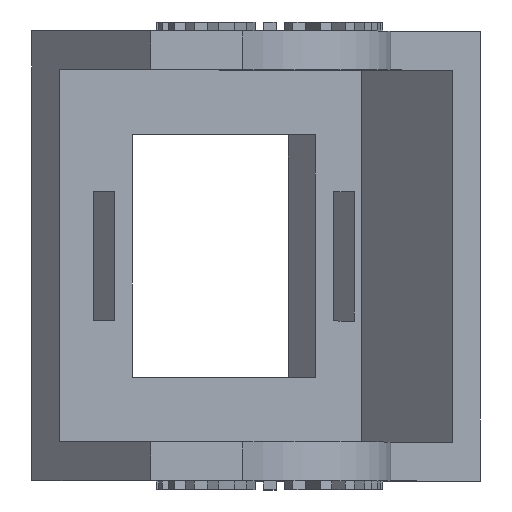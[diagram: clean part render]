
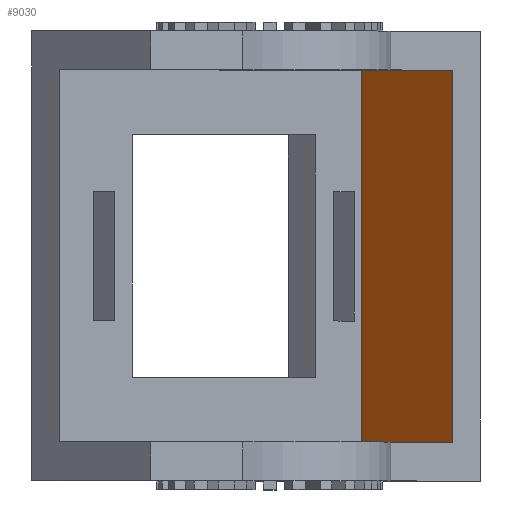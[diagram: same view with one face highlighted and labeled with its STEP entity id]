
A CAD part, top view. The second image highlights one B-rep face of the part: STEP entity #9030.
In plain terms, the highlighted planar face has unit normal (-0.707, 0, 0.707).
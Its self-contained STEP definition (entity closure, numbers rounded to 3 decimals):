
#828 = PLANE('',#829);
#829 = AXIS2_PLACEMENT_3D('',#830,#831,#832);
#830 = CARTESIAN_POINT('',(47.011,-13.9,34.646));
#831 = DIRECTION('',(0.707,0.,0.707));
#832 = DIRECTION('',(-0.707,0.,0.707));
#3741 = VERTEX_POINT('',#3742);
#3742 = CARTESIAN_POINT('',(45.314,11.5,36.343));
#3756 = PLANE('',#3757);
#3757 = AXIS2_PLACEMENT_3D('',#3758,#3759,#3760);
#3758 = CARTESIAN_POINT('',(39.657,11.5,27.292));
#3759 = DIRECTION('',(0.,1.,0.));
#3760 = DIRECTION('',(-0.707,0.,0.707));
#3768 = EDGE_CURVE('',#3769,#3741,#3771,.T.);
#3769 = VERTEX_POINT('',#3770);
#3770 = CARTESIAN_POINT('',(45.314,-11.5,36.343));
#3771 = SURFACE_CURVE('',#3772,(#3776,#3783),.PCURVE_S1.);
#3772 = LINE('',#3773,#3774);
#3773 = CARTESIAN_POINT('',(45.314,-13.9,36.343));
#3774 = VECTOR('',#3775,1.);
#3775 = DIRECTION('',(0.,1.,0.));
#3776 = PCURVE('',#828,#3777);
#3777 = DEFINITIONAL_REPRESENTATION('',(#3778),#3782);
#3778 = LINE('',#3779,#3780);
#3779 = CARTESIAN_POINT('',(2.4,0.));
#3780 = VECTOR('',#3781,1.);
#3781 = DIRECTION('',(0.,-1.));
#3782 = ( GEOMETRIC_REPRESENTATION_CONTEXT(2) 
PARAMETRIC_REPRESENTATION_CONTEXT() REPRESENTATION_CONTEXT('2D SPACE',''
  ) );
#3783 = PCURVE('',#3784,#3789);
#3784 = PLANE('',#3785);
#3785 = AXIS2_PLACEMENT_3D('',#3786,#3787,#3788);
#3786 = CARTESIAN_POINT('',(37.96,-13.9,28.989));
#3787 = DIRECTION('',(-0.707,0.,0.707));
#3788 = DIRECTION('',(0.707,0.,0.707));
#3789 = DEFINITIONAL_REPRESENTATION('',(#3790),#3794);
#3790 = LINE('',#3791,#3792);
#3791 = CARTESIAN_POINT('',(10.4,0.));
#3792 = VECTOR('',#3793,1.);
#3793 = DIRECTION('',(0.,1.));
#3794 = ( GEOMETRIC_REPRESENTATION_CONTEXT(2) 
PARAMETRIC_REPRESENTATION_CONTEXT() REPRESENTATION_CONTEXT('2D SPACE',''
  ) );
#3812 = PLANE('',#3813);
#3813 = AXIS2_PLACEMENT_3D('',#3814,#3815,#3816);
#3814 = CARTESIAN_POINT('',(39.657,-11.5,27.292));
#3815 = DIRECTION('',(0.,1.,0.));
#3816 = DIRECTION('',(-0.707,0.,0.707));
#3943 = PLANE('',#3944);
#3944 = AXIS2_PLACEMENT_3D('',#3945,#3946,#3947);
#3945 = CARTESIAN_POINT('',(41.354,-13.9,28.989));
#3946 = DIRECTION('',(0.707,0.,0.707));
#3947 = DIRECTION('',(-0.707,0.,0.707));
#8820 = EDGE_CURVE('',#8821,#8823,#8825,.T.);
#8821 = VERTEX_POINT('',#8822);
#8822 = CARTESIAN_POINT('',(39.657,11.5,30.686));
#8823 = VERTEX_POINT('',#8824);
#8824 = CARTESIAN_POINT('',(39.657,-11.5,30.686));
#8825 = SURFACE_CURVE('',#8826,(#8830,#8837),.PCURVE_S1.);
#8826 = LINE('',#8827,#8828);
#8827 = CARTESIAN_POINT('',(39.657,-13.9,30.686));
#8828 = VECTOR('',#8829,1.);
#8829 = DIRECTION('',(0.,-1.,0.));
#8830 = PCURVE('',#3943,#8831);
#8831 = DEFINITIONAL_REPRESENTATION('',(#8832),#8836);
#8832 = LINE('',#8833,#8834);
#8833 = CARTESIAN_POINT('',(2.4,0.));
#8834 = VECTOR('',#8835,1.);
#8835 = DIRECTION('',(0.,1.));
#8836 = ( GEOMETRIC_REPRESENTATION_CONTEXT(2) 
PARAMETRIC_REPRESENTATION_CONTEXT() REPRESENTATION_CONTEXT('2D SPACE',''
  ) );
#8837 = PCURVE('',#3784,#8838);
#8838 = DEFINITIONAL_REPRESENTATION('',(#8839),#8843);
#8839 = LINE('',#8840,#8841);
#8840 = CARTESIAN_POINT('',(2.4,0.));
#8841 = VECTOR('',#8842,1.);
#8842 = DIRECTION('',(0.,-1.));
#8843 = ( GEOMETRIC_REPRESENTATION_CONTEXT(2) 
PARAMETRIC_REPRESENTATION_CONTEXT() REPRESENTATION_CONTEXT('2D SPACE',''
  ) );
#8959 = EDGE_CURVE('',#3769,#8823,#8960,.T.);
#8960 = SURFACE_CURVE('',#8961,(#8965,#8972),.PCURVE_S1.);
#8961 = LINE('',#8962,#8963);
#8962 = CARTESIAN_POINT('',(37.96,-11.5,28.989));
#8963 = VECTOR('',#8964,1.);
#8964 = DIRECTION('',(-0.707,0.,-0.707));
#8965 = PCURVE('',#3812,#8966);
#8966 = DEFINITIONAL_REPRESENTATION('',(#8967),#8971);
#8967 = LINE('',#8968,#8969);
#8968 = CARTESIAN_POINT('',(2.4,0.));
#8969 = VECTOR('',#8970,1.);
#8970 = DIRECTION('',(0.,-1.));
#8971 = ( GEOMETRIC_REPRESENTATION_CONTEXT(2) 
PARAMETRIC_REPRESENTATION_CONTEXT() REPRESENTATION_CONTEXT('2D SPACE',''
  ) );
#8972 = PCURVE('',#3784,#8973);
#8973 = DEFINITIONAL_REPRESENTATION('',(#8974),#8978);
#8974 = LINE('',#8975,#8976);
#8975 = CARTESIAN_POINT('',(0.,2.4));
#8976 = VECTOR('',#8977,1.);
#8977 = DIRECTION('',(-1.,0.));
#8978 = ( GEOMETRIC_REPRESENTATION_CONTEXT(2) 
PARAMETRIC_REPRESENTATION_CONTEXT() REPRESENTATION_CONTEXT('2D SPACE',''
  ) );
#9030 = ADVANCED_FACE('',(#9031),#3784,.T.);
#9031 = FACE_BOUND('',#9032,.T.);
#9032 = EDGE_LOOP('',(#9033,#9034,#9035,#9036));
#9033 = ORIENTED_EDGE('',*,*,#8820,.T.);
#9034 = ORIENTED_EDGE('',*,*,#8959,.F.);
#9035 = ORIENTED_EDGE('',*,*,#3768,.T.);
#9036 = ORIENTED_EDGE('',*,*,#9037,.T.);
#9037 = EDGE_CURVE('',#3741,#8821,#9038,.T.);
#9038 = SURFACE_CURVE('',#9039,(#9043,#9050),.PCURVE_S1.);
#9039 = LINE('',#9040,#9041);
#9040 = CARTESIAN_POINT('',(37.96,11.5,28.989));
#9041 = VECTOR('',#9042,1.);
#9042 = DIRECTION('',(-0.707,0.,-0.707));
#9043 = PCURVE('',#3784,#9044);
#9044 = DEFINITIONAL_REPRESENTATION('',(#9045),#9049);
#9045 = LINE('',#9046,#9047);
#9046 = CARTESIAN_POINT('',(0.,25.4));
#9047 = VECTOR('',#9048,1.);
#9048 = DIRECTION('',(-1.,0.));
#9049 = ( GEOMETRIC_REPRESENTATION_CONTEXT(2) 
PARAMETRIC_REPRESENTATION_CONTEXT() REPRESENTATION_CONTEXT('2D SPACE',''
  ) );
#9050 = PCURVE('',#3756,#9051);
#9051 = DEFINITIONAL_REPRESENTATION('',(#9052),#9056);
#9052 = LINE('',#9053,#9054);
#9053 = CARTESIAN_POINT('',(2.4,0.));
#9054 = VECTOR('',#9055,1.);
#9055 = DIRECTION('',(0.,-1.));
#9056 = ( GEOMETRIC_REPRESENTATION_CONTEXT(2) 
PARAMETRIC_REPRESENTATION_CONTEXT() REPRESENTATION_CONTEXT('2D SPACE',''
  ) );
